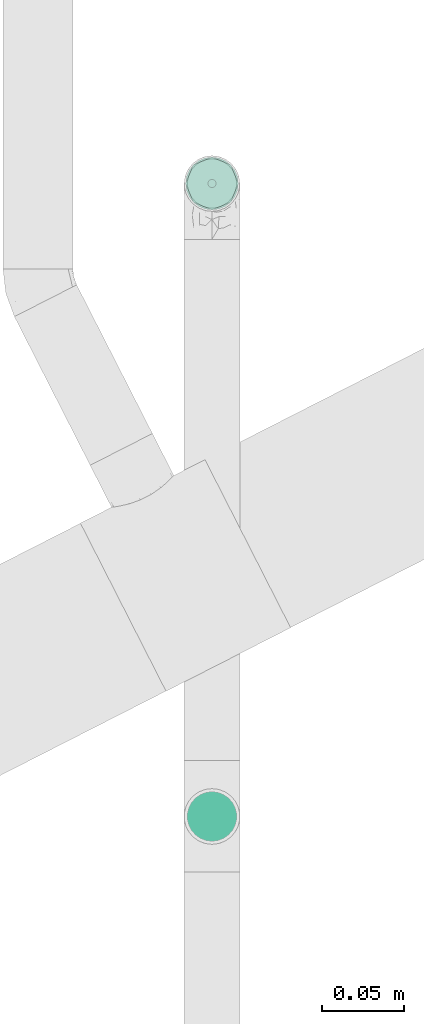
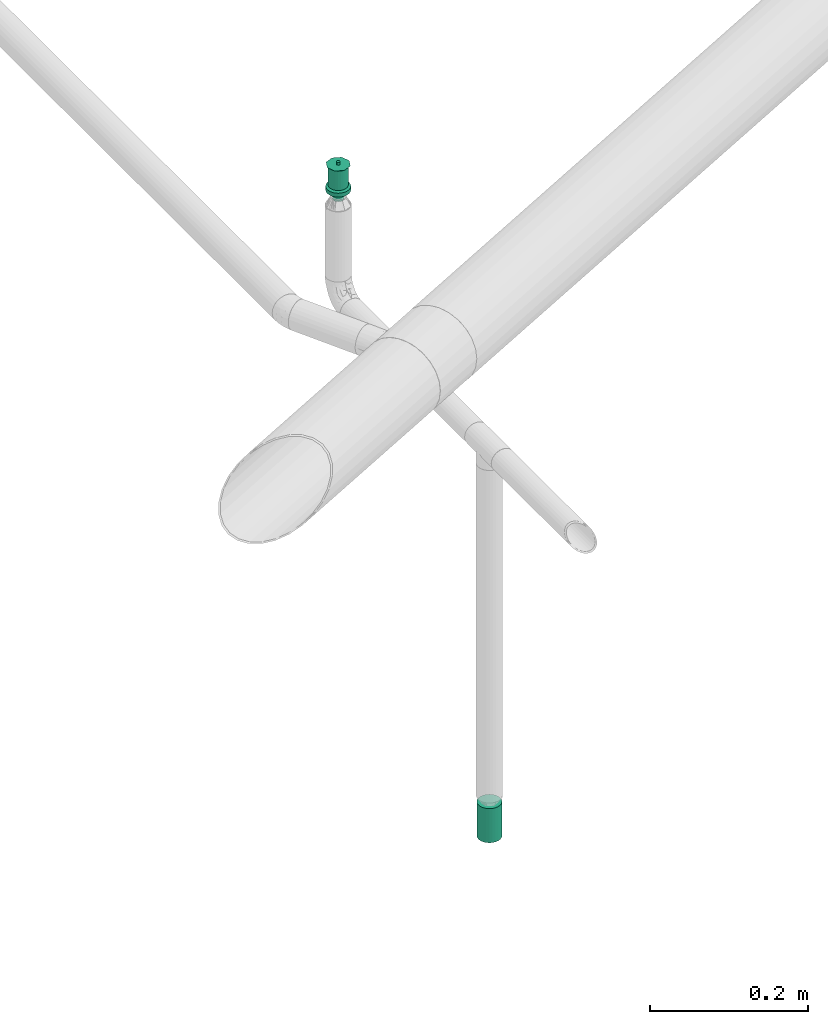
# One storey, part 77 of 94: 2 flow terminals.
"""IFC2X3 building model written with IfcOpenShell, lengths in millimetres."""

from ifc_helpers import new_model, entity, si_unit, converted_unit, derived_unit, direction, frame, origin_with_axes, place, context, subcontext, project, spatial, open_shell, surface_model, source, transform, mapped, type_object, element, save


model = new_model("IFC2X3")

# Units and contexts
model_context = context("Model", 3, precision=0.01, world=frame((0.0, 4.29681676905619e-09, 0.0)), true_north=direction((4.01073788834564e-13, 1.0)))
plan_context = context("Plan", 3, precision=0.01, world=frame((0.0, 4.29681676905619e-09, 0.0)), true_north=direction((4.01073788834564e-13, 1.0)))
body_context = subcontext(model_context, "Body", "Model", "MODEL_VIEW")
ifc_project = project(units=[converted_unit("PLANEANGLEUNIT", "DEGREE", entity("IfcPositiveLengthMeasure", 0.0174532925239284), si_unit("PLANEANGLEUNIT", "RADIAN"), dimensions=[0, 0, 0, 0, 0, 0, 0]), si_unit("AREAUNIT", "SQUARE_METRE"), si_unit("LENGTHUNIT", "METRE", prefix="MILLI"), si_unit("MASSUNIT", "GRAM", prefix="KILO"), si_unit("POWERUNIT", "WATT"), si_unit("PRESSUREUNIT", "PASCAL", prefix="KILO"), si_unit("FORCEUNIT", "NEWTON", prefix="KILO"), si_unit("ELECTRICVOLTAGEUNIT", "VOLT"), si_unit("ELECTRICCURRENTUNIT", "AMPERE"), si_unit("THERMODYNAMICTEMPERATUREUNIT", "DEGREE_CELSIUS"), si_unit("TIMEUNIT", "SECOND"), si_unit("VOLUMEUNIT", "CUBIC_METRE"), derived_unit("LINEARVELOCITYUNIT", [(si_unit("LENGTHUNIT", "METRE"), 1), (si_unit("TIMEUNIT", "SECOND"), -1)]), derived_unit("VOLUMETRICFLOWRATEUNIT", [(si_unit("VOLUMEUNIT", "CUBIC_METRE"), 1), (si_unit("TIMEUNIT", "SECOND"), -1)]), derived_unit("THERMALTRANSMITTANCEUNIT", [(si_unit("POWERUNIT", "WATT"), 1), (si_unit("THERMODYNAMICTEMPERATUREUNIT", "KELVIN"), -1), (si_unit("AREAUNIT", "SQUARE_METRE"), -1)]), derived_unit("SOUNDPRESSUREUNIT", [(si_unit("PRESSUREUNIT", "PASCAL"), 1)])], contexts=[model_context, plan_context])

# Site, building, storey
site_placement = place(None, frame((0.0, -4.29681676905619e-09, 0.0), z_axis=(0.0, 0.0, 1.0), x_axis=(1.0, 0.0, 0.0)))
site = spatial("IfcSite", under=ifc_project, at=site_placement, CompositionType="ELEMENT")
building_placement = place(site_placement, frame((0.0, 4.29681676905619e-09, 0.0), z_axis=(0.0, 0.0, 1.0), x_axis=(1.0, 0.0, 0.0)))
building = spatial("IfcBuilding", under=site, at=building_placement, Name="mc-building", CompositionType="ELEMENT")
storey_placement = place(building_placement, frame((0.0, 0.0, 210900.0), z_axis=(0.0, 0.0, 1.0), x_axis=(1.0, 0.0, 0.0)))
storey = spatial("IfcBuildingStorey", under=building, at=storey_placement, Name="Nivå F", CompositionType="ELEMENT", Elevation=210900.0)

# Flow terminals
fire_suppression_terminal_type_1 = type_object("IfcFireSuppressionTerminalType", Name="68DGR-STD-STÅENDE", PredefinedType="NOTDEFINED")
shared_shape_1 = source(origin_with_axes(), body_context, "Body", "SurfaceModel", [
    surface_model("IfcShellBasedSurfaceModel", [(3.36465, -12.55704, 51.0), (6.5, -11.25833, 51.0), (9.19239, -9.19239, 51.0), (12.55704, -3.36465, 51.0), (-11.25833, -6.5, 51.0), (11.25833, -6.5, 51.0), (-13.0, 0.0, 51.0), (0.0, -13.0, 51.0), (-6.5, -11.25833, 51.0), (-3.36465, -12.55704, 51.0), (-9.19239, -9.19239, 51.0), (-12.55704, -3.36465, 51.0), (13.0, 0.0, 51.0), (12.55704, 3.36465, 51.0), (11.25833, 6.5, 51.0), (9.19239, 9.19239, 51.0), (6.5, 11.25833, 51.0), (3.36465, 12.55704, 51.0), (0.0, 13.0, 51.0), (-3.36465, 12.55704, 51.0), (-12.55704, 3.36465, 51.0), (-9.19239, 9.19239, 51.0), (-11.25833, 6.5, 51.0), (-6.5, 11.25833, 51.0), (0.0, 13.0, 21.14766), (3.36465, 12.55704, 21.14766), (6.5, 11.25833, 21.14766), (-3.36465, 12.55704, 21.14766), (9.19239, 9.19239, 21.14766), (11.25833, 6.5, 21.14766), (12.55704, 3.36465, 21.14766), (-12.55704, 3.36465, 21.14766), (-11.25833, -6.5, 21.14766), (-9.19239, 9.19239, 21.14766), (-6.5, 11.25833, 21.14766), (-11.25833, 6.5, 21.14766), (-13.0, 0.0, 21.14766), (12.55704, -3.36465, 21.14766), (9.19239, -9.19239, 21.14766), (11.25833, -6.5, 21.14766), (6.5, -11.25833, 21.14766), (3.36465, -12.55704, 21.14766), (-6.5, -11.25833, 21.14766), (-9.19239, -9.19239, 21.14766), (-12.55704, -3.36465, 21.14766), (0.0, -13.0, 21.14766), (-3.36465, -12.55704, 21.14766), (13.0, 0.0, 21.14766), (7.24444, -1.94114, 0.1), (1.94114, -7.24444, 0.1), (3.75, -6.49519, 0.1), (5.3033, -5.3033, 0.1), (-5.3033, -5.3033, 0.1), (6.49519, -3.75, 0.1), (5.3033, 5.3033, 0.1), (0.0, -7.5, 0.1), (-3.75, -6.49519, 0.1), (-1.94114, -7.24444, 0.1), (-7.24444, -1.94114, 0.1), (-6.49519, -3.75, 0.1), (-7.24444, 1.94114, 0.1), (7.5, 0.0, 0.1), (6.49519, 3.75, 0.1), (-6.49519, 3.75, 0.1), (1.94114, 7.24444, 0.1), (0.0, 7.5, 0.1), (3.75, 6.49519, 0.1), (-7.5, 0.0, 0.1), (-5.3033, 5.3033, 0.1), (-1.94114, 7.24444, 0.1), (-3.75, 6.49519, 0.1), (7.24444, 1.94114, 0.1), (1.94114, 7.24444, -0.1), (-6.49519, 3.75, -0.1), (0.0, 7.5, -0.1), (5.3033, 5.3033, -0.1), (3.75, 6.49519, -0.1), (6.49519, 3.75, -0.1), (7.24444, 1.94114, -0.1), (-1.94114, 7.24444, -0.1), (-5.3033, 5.3033, -0.1), (-3.75, 6.49519, -0.1), (-7.24444, 1.94114, -0.1), (-7.24444, -1.94114, -0.1), (-7.5, 0.0, -0.1), (7.5, 0.0, -0.1), (7.24444, -1.94114, -0.1), (-5.3033, -5.3033, -0.1), (1.94114, -7.24444, -0.1), (6.49519, -3.75, -0.1), (5.3033, -5.3033, -0.1), (3.75, -6.49519, -0.1), (-6.49519, -3.75, -0.1), (-3.75, -6.49519, -0.1), (0.0, -7.5, -0.1), (-1.94114, -7.24444, -0.1), (0.0, -2.5, 51.0), (-2.5, 0.0, 51.0), (0.0, 2.5, 51.0), (2.5, 0.0, 51.0), (0.0, -16.0, 53.0), (11.31371, -11.31371, 53.0), (-11.31371, -11.31371, 53.0), (-16.0, 0.0, 53.0), (16.0, 0.0, 53.0), (11.31371, 11.31371, 53.0), (0.0, 16.0, 53.0), (-11.31371, 11.31371, 53.0), (1.25, -2.16506, 57.0), (0.0, -2.5, 57.0), (0.64705, -2.41481, 57.0), (2.41481, -0.64705, 57.0), (1.76777, -1.76777, 57.0), (-2.41481, -0.64705, 57.0), (-2.5, 0.0, 57.0), (2.16506, -1.25, 57.0), (-1.25, -2.16506, 57.0), (-0.64705, -2.41481, 57.0), (-1.76777, -1.76777, 57.0), (-2.16506, -1.25, 57.0), (2.5, 0.0, 57.0), (2.41481, 0.64705, 57.0), (2.16506, 1.25, 57.0), (1.76777, 1.76777, 57.0), (0.64705, 2.41481, 57.0), (1.25, 2.16506, 57.0), (-1.76777, 1.76777, 57.0), (0.0, 2.5, 57.0), (-2.16506, 1.25, 57.0), (-2.41481, 0.64705, 57.0), (-0.64705, 2.41481, 57.0), (-1.25, 2.16506, 57.0), (1.25, 2.16506, 51.0), (1.76777, 1.76777, 51.0), (1.15, 1.99186, 51.0), (0.59528, 2.22163, 51.0), (0.64705, 2.41481, 51.0), (0.0, 2.3, 51.0), (1.62635, 1.62635, 51.0), (2.41481, 0.64705, 51.0), (2.3, 0.0, 51.0), (2.22163, 0.59528, 51.0), (2.16506, 1.25, 51.0), (1.99186, 1.15, 51.0), (-0.59528, 2.22163, 51.0), (-0.64705, 2.41481, 51.0), (-1.15, 1.99186, 51.0), (-1.76777, 1.76777, 51.0), (-1.25, 2.16506, 51.0), (-1.62635, 1.62635, 51.0), (-1.99186, 1.15, 51.0), (-2.16506, 1.25, 51.0), (-2.22163, 0.59528, 51.0), (-2.41481, 0.64705, 51.0), (-2.3, 0.0, 51.0), (2.41481, -0.64705, 51.0), (2.22163, -0.59528, 51.0), (1.99186, -1.15, 51.0), (2.16506, -1.25, 51.0), (1.62635, -1.62635, 51.0), (1.76777, -1.76777, 51.0), (1.25, -2.16506, 51.0), (1.15, -1.99186, 51.0), (0.59528, -2.22163, 51.0), (0.64705, -2.41481, 51.0), (0.0, -2.3, 51.0), (-2.16506, -1.25, 51.0), (-1.99186, -1.15, 51.0), (-1.76777, -1.76777, 51.0), (-1.62635, -1.62635, 51.0), (-2.41481, -0.64705, 51.0), (-2.22163, -0.59528, 51.0), (-0.59528, -2.22163, 51.0), (-0.64705, -2.41481, 51.0), (-1.15, -1.99186, 51.0), (-1.25, -2.16506, 51.0), (1.62635, -1.62635, 56.8), (1.15, -1.99186, 56.8), (0.59528, -2.22163, 56.8), (0.0, -2.3, 56.8), (2.22163, 0.59528, 56.8), (1.99186, -1.15, 56.8), (2.22163, -0.59528, 56.8), (-0.59528, -2.22163, 56.8), (-1.15, -1.99186, 56.8), (-1.62635, -1.62635, 56.8), (-1.99186, -1.15, 56.8), (-2.22163, -0.59528, 56.8), (-1.99186, 1.15, 56.8), (2.3, 0.0, 56.8), (1.62635, 1.62635, 56.8), (1.99186, 1.15, 56.8), (1.15, 1.99186, 56.8), (0.0, 2.3, 56.8), (0.59528, 2.22163, 56.8), (-2.22163, 0.59528, 56.8), (-2.3, 0.0, 56.8), (-1.15, 1.99186, 56.8), (-0.59528, 2.22163, 56.8), (-1.62635, 1.62635, 56.8), (4.1411, -15.45481, 19.0), (8.0, -13.85641, 19.0), (11.31371, -11.31371, 19.0), (-8.0, -13.85641, 19.0), (15.45481, -4.1411, 19.0), (16.0, 0.0, 19.0), (13.85641, -8.0, 19.0), (0.0, -16.0, 19.0), (-4.1411, -15.45481, 19.0), (-13.85641, -8.0, 19.0), (-11.31371, -11.31371, 19.0), (-15.45481, -4.1411, 19.0), (15.45481, 4.1411, 19.0), (13.85641, 8.0, 19.0), (11.31371, 11.31371, 19.0), (-4.1411, 15.45481, 19.0), (8.0, 13.85641, 19.0), (4.1411, 15.45481, 19.0), (0.0, 16.0, 19.0), (-13.85641, 8.0, 19.0), (-15.45481, 4.1411, 19.0), (-16.0, 0.0, 19.0), (-11.31371, 11.31371, 19.0), (-8.0, 13.85641, 19.0), (0.0, 16.0, 13.0), (4.1411, 15.45481, 13.0), (8.0, 13.85641, 13.0), (-4.1411, 15.45481, 13.0), (11.31371, 11.31371, 13.0), (13.85641, 8.0, 13.0), (15.45481, 4.1411, 13.0), (-15.45481, -4.1411, 13.0), (-11.31371, 11.31371, 13.0), (-8.0, 13.85641, 13.0), (-13.85641, 8.0, 13.0), (-15.45481, 4.1411, 13.0), (-16.0, 0.0, 13.0), (4.1411, -15.45481, 13.0), (16.0, 0.0, 13.0), (15.45481, -4.1411, 13.0), (13.85641, -8.0, 13.0), (11.31371, -11.31371, 13.0), (8.0, -13.85641, 13.0), (-8.0, -13.85641, 13.0), (-13.85641, -8.0, 13.0), (-11.31371, -11.31371, 13.0), (0.0, -16.0, 13.0), (-4.1411, -15.45481, 13.0), (7.24444, -1.94114, 13.0), (1.94114, -7.24444, 13.0), (3.75, -6.49519, 13.0), (5.3033, -5.3033, 13.0), (-5.3033, -5.3033, 13.0), (6.49519, -3.75, 13.0), (5.3033, 5.3033, 13.0), (0.0, -7.5, 13.0), (-3.75, -6.49519, 13.0), (-1.94114, -7.24444, 13.0), (-7.24444, -1.94114, 13.0), (-6.49519, -3.75, 13.0), (-7.24444, 1.94114, 13.0), (7.5, 0.0, 13.0), (6.49519, 3.75, 13.0), (-6.49519, 3.75, 13.0), (1.94114, 7.24444, 13.0), (0.0, 7.5, 13.0), (3.75, 6.49519, 13.0), (-7.5, 0.0, 13.0), (-5.3033, 5.3033, 13.0), (-1.94114, 7.24444, 13.0), (-3.75, 6.49519, 13.0), (7.24444, 1.94114, 13.0), (3.75, 6.49519, 0.0), (5.3033, 5.3033, 0.0), (3.65, 6.32199, 0.0), (1.88938, 7.05126, 0.0), (0.0, 7.3, 0.0), (1.94114, 7.24444, 0.0), (0.0, 7.5, 0.0), (5.16188, 5.16188, 0.0), (7.24444, 1.94114, 0.0), (7.3, 0.0, 0.0), (7.05126, 1.88938, 0.0), (7.5, 0.0, 0.0), (6.49519, 3.75, 0.0), (6.32199, 3.65, 0.0), (-1.88938, 7.05126, 0.0), (-1.94114, 7.24444, 0.0), (-3.65, 6.32199, 0.0), (-5.3033, 5.3033, 0.0), (-3.75, 6.49519, 0.0), (-5.16188, 5.16188, 0.0), (-6.32199, 3.65, 0.0), (-6.49519, 3.75, 0.0), (-7.05126, 1.88938, 0.0), (-7.24444, 1.94114, 0.0), (-7.3, 0.0, 0.0), (-7.5, 0.0, 0.0), (7.24444, -1.94114, 0.0), (7.05126, -1.88938, 0.0), (6.32199, -3.65, 0.0), (6.49519, -3.75, 0.0), (5.16188, -5.16188, 0.0), (5.3033, -5.3033, 0.0), (3.75, -6.49519, 0.0), (3.65, -6.32199, 0.0), (1.88938, -7.05126, 0.0), (1.94114, -7.24444, 0.0), (0.0, -7.3, 0.0), (0.0, -7.5, 0.0), (-6.49519, -3.75, 0.0), (-6.32199, -3.65, 0.0), (-5.3033, -5.3033, 0.0), (-5.16188, -5.16188, 0.0), (-7.24444, -1.94114, 0.0), (-7.05126, -1.88938, 0.0), (-1.88938, -7.05126, 0.0), (-1.94114, -7.24444, 0.0), (-3.65, -6.32199, 0.0), (-3.75, -6.49519, 0.0), (1.88938, -7.05126, 12.8), (0.0, -7.3, 12.8), (3.65, -6.32199, 12.8), (5.16188, -5.16188, 12.8), (6.32199, -3.65, 12.8), (7.05126, 1.88938, 12.8), (7.05126, -1.88938, 12.8), (-5.16188, -5.16188, 12.8), (-1.88938, -7.05126, 12.8), (-3.65, -6.32199, 12.8), (-6.32199, -3.65, 12.8), (-7.05126, -1.88938, 12.8), (0.0, 7.3, 12.8), (7.3, 0.0, 12.8), (6.32199, 3.65, 12.8), (5.16188, 5.16188, 12.8), (3.65, 6.32199, 12.8), (1.88938, 7.05126, 12.8), (-6.32199, 3.65, 12.8), (-7.05126, 1.88938, 12.8), (-7.3, 0.0, 12.8), (-3.65, 6.32199, 12.8), (-1.88938, 7.05126, 12.8), (-5.16188, 5.16188, 12.8)], [open_shell([[[0, 1, 2]], [[0, 2, 3]], [[0, 3, 4]], [[3, 2, 5]], [[6, 4, 3]], [[7, 8, 9]], [[7, 0, 8]], [[8, 4, 10]], [[0, 4, 8]], [[4, 6, 11]], [[6, 3, 12]], [[13, 14, 15]], [[6, 13, 15]], [[16, 17, 18]], [[15, 16, 19]], [[18, 19, 16]], [[20, 21, 22]], [[20, 6, 15]], [[21, 19, 23]], [[19, 21, 20]], [[15, 19, 20]], [[13, 6, 12]], [[24, 25, 26]], [[27, 24, 26]], [[28, 29, 30]], [[26, 28, 31]], [[28, 32, 31]], [[27, 33, 34]], [[33, 27, 31]], [[33, 31, 35]], [[27, 26, 31]], [[31, 32, 36]], [[32, 28, 30]], [[32, 30, 37]], [[38, 37, 39]], [[38, 40, 41]], [[38, 41, 37]], [[32, 37, 41]], [[32, 42, 43]], [[44, 36, 32]], [[42, 45, 46]], [[42, 32, 41]], [[45, 42, 41]], [[30, 47, 37]], [[4, 32, 43]], [[8, 42, 46]], [[43, 42, 10]], [[9, 46, 45]], [[36, 11, 6]], [[11, 36, 44]], [[11, 44, 4]], [[44, 32, 4]], [[43, 10, 4]], [[8, 10, 42]], [[46, 9, 8]], [[45, 7, 9]], [[0, 41, 40]], [[38, 1, 40]], [[5, 39, 37]], [[38, 39, 2]], [[3, 37, 47]], [[41, 0, 7]], [[40, 1, 0]], [[38, 2, 1]], [[39, 5, 2]], [[3, 5, 37]], [[47, 12, 3]], [[41, 7, 45]], [[30, 13, 47]], [[29, 14, 30]], [[25, 24, 17]], [[15, 29, 28]], [[30, 14, 13]], [[13, 12, 47]], [[16, 26, 17]], [[16, 15, 28]], [[26, 25, 17]], [[15, 14, 29]], [[28, 26, 16]], [[24, 18, 17]], [[19, 27, 34]], [[33, 23, 34]], [[22, 35, 31]], [[33, 35, 21]], [[20, 31, 36]], [[27, 19, 18]], [[34, 23, 19]], [[33, 21, 23]], [[35, 22, 21]], [[20, 22, 31]], [[36, 6, 20]], [[27, 18, 24]], [[48, 49, 50]], [[48, 50, 51]], [[49, 48, 52]], [[48, 51, 53]], [[54, 52, 48]], [[55, 56, 57]], [[56, 55, 52]], [[52, 58, 59]], [[52, 55, 49]], [[52, 60, 58]], [[54, 48, 61]], [[62, 54, 61]], [[54, 63, 52]], [[64, 65, 54]], [[64, 54, 66]], [[63, 54, 65]], [[63, 60, 52]], [[67, 58, 60]], [[68, 69, 70]], [[69, 68, 63]], [[69, 63, 65]], [[71, 62, 61]], [[72, 73, 74]], [[75, 72, 76]], [[75, 77, 78]], [[72, 75, 73]], [[78, 73, 75]], [[79, 80, 81]], [[80, 79, 73]], [[74, 73, 79]], [[78, 82, 73]], [[82, 83, 84]], [[82, 78, 85]], [[86, 87, 85]], [[88, 86, 89]], [[90, 91, 88]], [[90, 88, 89]], [[87, 86, 88]], [[83, 87, 92]], [[83, 85, 87]], [[93, 94, 95]], [[94, 93, 87]], [[88, 94, 87]], [[85, 83, 82]], [[83, 58, 84]], [[92, 59, 83]], [[56, 87, 93]], [[92, 87, 52]], [[57, 93, 95]], [[83, 59, 58]], [[58, 67, 84]], [[57, 56, 93]], [[52, 87, 56]], [[52, 59, 92]], [[55, 57, 95]], [[95, 94, 55]], [[88, 49, 94]], [[91, 50, 88]], [[53, 90, 89]], [[91, 90, 51]], [[48, 89, 86]], [[91, 51, 50]], [[50, 49, 88]], [[61, 48, 86]], [[53, 89, 48]], [[53, 51, 90]], [[85, 61, 86]], [[94, 49, 55]], [[78, 71, 85]], [[77, 62, 78]], [[66, 75, 76]], [[77, 75, 54]], [[64, 76, 72]], [[78, 62, 71]], [[71, 61, 85]], [[64, 66, 76]], [[54, 75, 66]], [[54, 62, 77]], [[65, 64, 72]], [[72, 74, 65]], [[79, 69, 74]], [[81, 70, 79]], [[63, 80, 73]], [[81, 80, 68]], [[60, 73, 82]], [[81, 68, 70]], [[70, 69, 79]], [[67, 60, 82]], [[63, 73, 60]], [[63, 68, 80]], [[84, 67, 82]], [[74, 69, 65]], [[96, 97, 98]], [[98, 99, 96]], [[100, 101, 102]], [[103, 102, 101]], [[101, 104, 103]], [[104, 105, 106]], [[107, 103, 106]], [[106, 103, 104]], [[99, 98, 105]], [[105, 104, 99]], [[98, 106, 105]], [[98, 107, 106]], [[107, 98, 97]], [[103, 107, 97]], [[97, 96, 102]], [[102, 103, 97]], [[96, 100, 102]], [[96, 101, 100]], [[101, 96, 99]], [[104, 101, 99]], [[108, 109, 110]], [[111, 108, 112]], [[113, 108, 114]], [[111, 112, 115]], [[108, 111, 114]], [[109, 116, 117]], [[116, 109, 118]], [[118, 113, 119]], [[118, 109, 108]], [[108, 113, 118]], [[111, 120, 114]], [[121, 122, 123]], [[114, 121, 123]], [[114, 123, 124]], [[124, 123, 125]], [[126, 124, 127]], [[124, 128, 129]], [[129, 114, 124]], [[126, 130, 131]], [[128, 124, 126]], [[130, 126, 127]], [[121, 114, 120]], [[132, 133, 134]], [[132, 134, 135]], [[136, 135, 137]], [[135, 136, 132]], [[136, 137, 98]], [[134, 133, 138]], [[139, 140, 141]], [[140, 139, 99]], [[139, 141, 142]], [[138, 142, 143]], [[142, 138, 133]], [[143, 142, 141]], [[98, 144, 145]], [[98, 137, 144]], [[145, 144, 146]], [[147, 148, 149]], [[146, 148, 145]], [[149, 148, 146]], [[150, 151, 147]], [[151, 150, 152]], [[150, 147, 149]], [[153, 152, 154]], [[152, 153, 151]], [[153, 154, 97]], [[99, 155, 156]], [[156, 155, 157]], [[157, 158, 159]], [[158, 157, 155]], [[159, 158, 160]], [[160, 161, 162]], [[162, 161, 163]], [[163, 164, 165]], [[164, 163, 161]], [[165, 164, 96]], [[162, 159, 160]], [[166, 167, 168]], [[168, 167, 169]], [[167, 166, 170]], [[97, 171, 170]], [[170, 171, 167]], [[97, 154, 171]], [[172, 96, 173]], [[172, 173, 174]], [[169, 175, 168]], [[175, 169, 174]], [[175, 174, 173]], [[165, 96, 172]], [[156, 140, 99]], [[170, 113, 97]], [[166, 119, 170]], [[116, 168, 175]], [[166, 168, 118]], [[117, 175, 173]], [[170, 119, 113]], [[113, 114, 97]], [[117, 116, 175]], [[118, 168, 116]], [[118, 119, 166]], [[109, 117, 173]], [[173, 96, 109]], [[164, 110, 96]], [[161, 108, 164]], [[115, 160, 158]], [[161, 160, 112]], [[111, 158, 155]], [[161, 112, 108]], [[108, 110, 164]], [[120, 111, 155]], [[115, 158, 111]], [[115, 112, 160]], [[99, 120, 155]], [[96, 110, 109]], [[139, 121, 99]], [[142, 122, 139]], [[125, 133, 132]], [[142, 133, 123]], [[124, 132, 136]], [[139, 122, 121]], [[121, 120, 99]], [[124, 125, 132]], [[123, 133, 125]], [[123, 122, 142]], [[127, 124, 136]], [[136, 98, 127]], [[145, 130, 98]], [[148, 131, 145]], [[128, 147, 151]], [[148, 147, 126]], [[129, 151, 153]], [[148, 126, 131]], [[131, 130, 145]], [[114, 129, 153]], [[128, 151, 129]], [[128, 126, 147]], [[97, 114, 153]], [[98, 130, 127]], [[176, 177, 178]], [[176, 178, 179]], [[180, 176, 179]], [[181, 176, 182]], [[180, 182, 176]], [[183, 184, 179]], [[185, 179, 184]], [[186, 187, 185]], [[185, 187, 188]], [[179, 185, 188]], [[189, 182, 180]], [[190, 191, 180]], [[192, 190, 180]], [[193, 194, 192]], [[180, 193, 192]], [[188, 193, 180]], [[195, 188, 196]], [[196, 188, 187]], [[197, 198, 199]], [[188, 199, 198]], [[188, 198, 193]], [[180, 179, 188]], [[154, 187, 171]], [[171, 186, 167]], [[174, 169, 184]], [[185, 169, 167]], [[172, 174, 183]], [[187, 186, 171]], [[154, 196, 187]], [[174, 184, 183]], [[184, 169, 185]], [[167, 186, 185]], [[172, 183, 179]], [[179, 165, 172]], [[165, 178, 163]], [[163, 177, 162]], [[157, 159, 181]], [[176, 159, 162]], [[156, 157, 182]], [[177, 176, 162]], [[163, 178, 177]], [[156, 182, 189]], [[182, 157, 181]], [[159, 176, 181]], [[156, 189, 140]], [[179, 178, 165]], [[140, 180, 141]], [[141, 191, 143]], [[134, 138, 192]], [[190, 138, 143]], [[135, 134, 194]], [[180, 191, 141]], [[140, 189, 180]], [[134, 192, 194]], [[192, 138, 190]], [[143, 191, 190]], [[135, 194, 193]], [[193, 137, 135]], [[137, 198, 144]], [[144, 197, 146]], [[150, 149, 188]], [[199, 149, 146]], [[152, 150, 195]], [[197, 199, 146]], [[144, 198, 197]], [[152, 195, 196]], [[195, 150, 188]], [[149, 199, 188]], [[152, 196, 154]], [[193, 198, 137]], [[200, 201, 202]], [[203, 200, 202]], [[204, 205, 202]], [[204, 202, 206]], [[203, 202, 205]], [[207, 203, 208]], [[207, 200, 203]], [[203, 209, 210]], [[209, 203, 211]], [[205, 211, 203]], [[205, 212, 211]], [[212, 213, 214]], [[215, 212, 214]], [[216, 217, 218]], [[214, 216, 215]], [[218, 215, 216]], [[211, 219, 220]], [[221, 211, 220]], [[222, 215, 223]], [[215, 222, 219]], [[219, 211, 215]], [[211, 212, 215]], [[224, 225, 226]], [[227, 224, 226]], [[228, 229, 230]], [[227, 226, 228]], [[227, 228, 231]], [[227, 232, 233]], [[232, 227, 234]], [[234, 231, 235]], [[231, 234, 227]], [[235, 231, 236]], [[228, 230, 231]], [[237, 238, 239]], [[237, 239, 240]], [[241, 242, 237]], [[241, 237, 240]], [[238, 237, 243]], [[244, 243, 245]], [[243, 244, 231]], [[243, 246, 247]], [[243, 231, 238]], [[237, 246, 243]], [[238, 231, 230]], [[231, 211, 236]], [[244, 209, 231]], [[203, 245, 243]], [[244, 245, 210]], [[208, 243, 247]], [[231, 209, 211]], [[211, 221, 236]], [[208, 203, 243]], [[210, 245, 203]], [[210, 209, 244]], [[207, 208, 247]], [[247, 246, 207]], [[237, 200, 246]], [[242, 201, 237]], [[206, 241, 240]], [[242, 241, 202]], [[204, 240, 239]], [[242, 202, 201]], [[201, 200, 237]], [[205, 204, 239]], [[206, 240, 204]], [[206, 202, 241]], [[238, 205, 239]], [[246, 200, 207]], [[230, 212, 238]], [[229, 213, 230]], [[216, 228, 226]], [[229, 228, 214]], [[217, 226, 225]], [[230, 213, 212]], [[212, 205, 238]], [[217, 216, 226]], [[214, 228, 216]], [[214, 213, 229]], [[218, 217, 225]], [[225, 224, 218]], [[227, 215, 224]], [[233, 223, 227]], [[219, 232, 234]], [[233, 232, 222]], [[220, 234, 235]], [[233, 222, 223]], [[223, 215, 227]], [[221, 220, 235]], [[219, 234, 220]], [[219, 222, 232]], [[236, 221, 235]], [[224, 215, 218]], [[248, 249, 250]], [[248, 250, 251]], [[249, 248, 252]], [[248, 251, 253]], [[254, 252, 248]], [[255, 256, 257]], [[256, 255, 252]], [[252, 258, 259]], [[252, 255, 249]], [[252, 260, 258]], [[254, 248, 261]], [[262, 254, 261]], [[254, 263, 252]], [[264, 265, 254]], [[264, 254, 266]], [[263, 254, 265]], [[263, 260, 252]], [[267, 258, 260]], [[268, 269, 270]], [[269, 268, 263]], [[269, 263, 265]], [[271, 262, 261]], [[272, 273, 274]], [[272, 274, 275]], [[276, 277, 275]], [[277, 276, 278]], [[275, 277, 272]], [[274, 273, 279]], [[280, 281, 282]], [[281, 280, 283]], [[280, 282, 284]], [[279, 284, 285]], [[284, 279, 273]], [[285, 284, 282]], [[278, 286, 287]], [[287, 286, 288]], [[289, 290, 291]], [[288, 290, 287]], [[288, 291, 290]], [[278, 276, 286]], [[292, 293, 289]], [[293, 292, 294]], [[292, 289, 291]], [[295, 294, 296]], [[294, 295, 293]], [[295, 296, 297]], [[283, 298, 299]], [[299, 298, 300]], [[300, 301, 302]], [[301, 300, 298]], [[302, 301, 303]], [[303, 304, 305]], [[305, 304, 306]], [[306, 307, 308]], [[307, 306, 304]], [[308, 307, 309]], [[305, 302, 303]], [[310, 311, 312]], [[312, 311, 313]], [[311, 310, 314]], [[297, 315, 314]], [[314, 315, 311]], [[297, 296, 315]], [[316, 309, 317]], [[316, 317, 318]], [[313, 319, 312]], [[313, 318, 319]], [[319, 318, 317]], [[308, 309, 316]], [[299, 281, 283]], [[314, 258, 297]], [[310, 259, 314]], [[256, 312, 319]], [[310, 312, 252]], [[257, 319, 317]], [[314, 259, 258]], [[258, 267, 297]], [[257, 256, 319]], [[252, 312, 256]], [[252, 259, 310]], [[255, 257, 317]], [[317, 309, 255]], [[307, 249, 309]], [[304, 250, 307]], [[253, 303, 301]], [[304, 303, 251]], [[248, 301, 298]], [[304, 251, 250]], [[250, 249, 307]], [[261, 248, 298]], [[253, 301, 248]], [[253, 251, 303]], [[283, 261, 298]], [[309, 249, 255]], [[280, 271, 283]], [[284, 262, 280]], [[266, 273, 272]], [[284, 273, 254]], [[264, 272, 277]], [[280, 262, 271]], [[271, 261, 283]], [[264, 266, 272]], [[254, 273, 266]], [[254, 262, 284]], [[265, 264, 277]], [[277, 278, 265]], [[287, 269, 278]], [[290, 270, 287]], [[263, 289, 293]], [[290, 289, 268]], [[260, 293, 295]], [[290, 268, 270]], [[270, 269, 287]], [[267, 260, 295]], [[263, 293, 260]], [[263, 268, 289]], [[297, 267, 295]], [[278, 269, 265]], [[320, 321, 322]], [[323, 322, 324]], [[325, 326, 322]], [[324, 322, 326]], [[322, 327, 325]], [[328, 329, 321]], [[327, 321, 329]], [[330, 331, 327]], [[322, 321, 327]], [[331, 332, 327]], [[326, 325, 333]], [[334, 325, 332]], [[335, 334, 336]], [[332, 337, 336]], [[334, 332, 336]], [[331, 338, 332]], [[339, 338, 340]], [[340, 338, 331]], [[341, 342, 343]], [[332, 338, 343]], [[332, 343, 342]], [[332, 325, 327]], [[296, 331, 315]], [[315, 330, 311]], [[318, 313, 329]], [[327, 313, 311]], [[316, 318, 328]], [[331, 330, 315]], [[296, 340, 331]], [[318, 329, 328]], [[329, 313, 327]], [[311, 330, 327]], [[316, 328, 321]], [[321, 308, 316]], [[308, 320, 306]], [[306, 322, 305]], [[300, 302, 324]], [[323, 302, 305]], [[299, 300, 326]], [[322, 323, 305]], [[306, 320, 322]], [[299, 326, 333]], [[326, 300, 324]], [[302, 323, 324]], [[299, 333, 281]], [[321, 320, 308]], [[281, 325, 282]], [[282, 334, 285]], [[274, 279, 336]], [[335, 279, 285]], [[275, 274, 337]], [[325, 334, 282]], [[281, 333, 325]], [[274, 336, 337]], [[336, 279, 335]], [[285, 334, 335]], [[275, 337, 332]], [[332, 276, 275]], [[276, 342, 286]], [[286, 341, 288]], [[292, 291, 338]], [[343, 291, 288]], [[294, 292, 339]], [[341, 343, 288]], [[286, 342, 341]], [[294, 339, 340]], [[339, 292, 338]], [[291, 343, 338]], [[294, 340, 296]], [[332, 342, 276]]])]),
])
flow_terminal_1_placement = place(storey_placement, frame((720388.90308, 443636.12104, 3752.0), z_axis=(0.0, 0.0, 1.0), x_axis=(1.0, 0.0, 0.0)))
element("IfcFlowTerminal", 1, at=flow_terminal_1_placement, inside=storey, type_object=fire_suppression_terminal_type_1, Name="68DGR-STD-STÅENDE", context=body_context, shape_type="MappedRepresentation", body=[
    mapped(shared_shape_1, transform((0.0, 0.0, 0.0), scale=1.0)),
])
fire_suppression_terminal_type_2 = type_object("IfcFireSuppressionTerminalType", Name="SP-15-K80-68DGR-STD-HIMLING", PredefinedType="NOTDEFINED")
shared_shape_2 = source(origin_with_axes(), body_context, "Body", "SurfaceModel", [
    surface_model("IfcShellBasedSurfaceModel", [(4.1411, -15.45481, 53.0), (8.0, -13.85641, 53.0), (11.31371, -11.31371, 53.0), (-8.0, -13.85641, 53.0), (15.45481, -4.1411, 53.0), (16.0, 0.0, 53.0), (13.85641, -8.0, 53.0), (0.0, -16.0, 53.0), (-4.1411, -15.45481, 53.0), (-13.85641, -8.0, 53.0), (-11.31371, -11.31371, 53.0), (-15.45481, -4.1411, 53.0), (15.45481, 4.1411, 53.0), (13.85641, 8.0, 53.0), (11.31371, 11.31371, 53.0), (-4.1411, 15.45481, 53.0), (8.0, 13.85641, 53.0), (4.1411, 15.45481, 53.0), (0.0, 16.0, 53.0), (-13.85641, 8.0, 53.0), (-15.45481, 4.1411, 53.0), (-16.0, 0.0, 53.0), (-11.31371, 11.31371, 53.0), (-8.0, 13.85641, 53.0), (0.0, 16.0, 0.0), (4.1411, 15.45481, 0.0), (8.0, 13.85641, 0.0), (-4.1411, 15.45481, 0.0), (11.31371, 11.31371, 0.0), (13.85641, 8.0, 0.0), (15.45481, 4.1411, 0.0), (-15.45481, -4.1411, 0.0), (-11.31371, 11.31371, 0.0), (-8.0, 13.85641, 0.0), (-13.85641, 8.0, 0.0), (-15.45481, 4.1411, 0.0), (-16.0, 0.0, 0.0), (4.1411, -15.45481, 0.0), (16.0, 0.0, 0.0), (15.45481, -4.1411, 0.0), (13.85641, -8.0, 0.0), (11.31371, -11.31371, 0.0), (8.0, -13.85641, 0.0), (-8.0, -13.85641, 0.0), (-13.85641, -8.0, 0.0), (-11.31371, -11.31371, 0.0), (0.0, -16.0, 0.0), (-4.1411, -15.45481, 0.0)], [open_shell([[[0, 1, 2]], [[3, 0, 2]], [[4, 5, 2]], [[4, 2, 6]], [[3, 2, 5]], [[7, 3, 8]], [[7, 0, 3]], [[3, 9, 10]], [[9, 3, 11]], [[5, 11, 3]], [[5, 12, 11]], [[12, 13, 14]], [[15, 12, 14]], [[16, 17, 18]], [[14, 16, 15]], [[18, 15, 16]], [[11, 19, 20]], [[21, 11, 20]], [[22, 15, 23]], [[15, 22, 19]], [[19, 11, 15]], [[11, 12, 15]], [[24, 25, 26]], [[27, 24, 26]], [[28, 29, 30]], [[27, 26, 28]], [[27, 28, 31]], [[27, 32, 33]], [[32, 27, 34]], [[34, 31, 35]], [[31, 34, 27]], [[35, 31, 36]], [[28, 30, 31]], [[37, 38, 39]], [[37, 39, 40]], [[41, 42, 37]], [[41, 37, 40]], [[38, 37, 43]], [[44, 43, 45]], [[43, 44, 31]], [[43, 46, 47]], [[43, 31, 38]], [[37, 46, 43]], [[38, 31, 30]], [[11, 31, 44]], [[45, 9, 44]], [[3, 43, 47]], [[45, 43, 10]], [[8, 47, 46]], [[31, 21, 36]], [[31, 11, 21]], [[44, 9, 11]], [[45, 10, 9]], [[3, 10, 43]], [[47, 8, 3]], [[46, 7, 8]], [[0, 37, 42]], [[41, 1, 42]], [[6, 40, 39]], [[41, 40, 2]], [[4, 39, 38]], [[37, 0, 7]], [[42, 1, 0]], [[41, 2, 1]], [[40, 6, 2]], [[4, 6, 39]], [[38, 5, 4]], [[37, 7, 46]], [[12, 38, 30]], [[13, 30, 29]], [[16, 26, 25]], [[17, 25, 24]], [[30, 13, 12]], [[12, 5, 38]], [[28, 14, 13]], [[28, 26, 14]], [[14, 26, 16]], [[25, 17, 16]], [[28, 13, 29]], [[24, 18, 17]], [[15, 27, 33]], [[32, 23, 33]], [[19, 34, 35]], [[32, 34, 22]], [[20, 35, 36]], [[27, 15, 18]], [[33, 23, 15]], [[32, 22, 23]], [[34, 19, 22]], [[20, 19, 35]], [[36, 21, 20]], [[27, 18, 24]]])]),
])
flow_terminal_2_placement = place(storey_placement, frame((720388.90308, 443252.252, 3050.0), z_axis=(0.0, 0.0, -1.0), x_axis=(-1.0, 0.0, 0.0)))
element("IfcFlowTerminal", 2, at=flow_terminal_2_placement, inside=storey, type_object=fire_suppression_terminal_type_2, Name="SP-15-K80-68DGR-STD-HIMLING", context=body_context, shape_type="MappedRepresentation", body=[
    mapped(shared_shape_2, transform((0.0, 0.0, 0.0), scale=1.0)),
])

save(model, "model.ifc")
